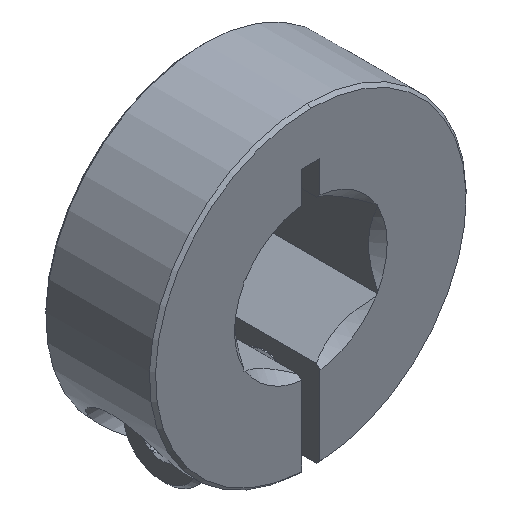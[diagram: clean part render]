
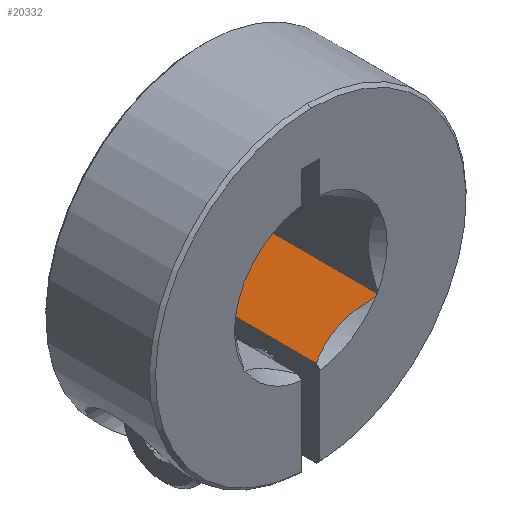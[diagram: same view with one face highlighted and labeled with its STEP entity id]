
A CAD part, isometric view. The second image highlights one B-rep face of the part: STEP entity #20332.
In plain terms, the highlighted planar face has unit normal (-0.5, 0, 0.866).
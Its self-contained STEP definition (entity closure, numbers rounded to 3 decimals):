
#914 = LINE ( 'NONE', #2593, #9902 ) ;
#2089 = DIRECTION ( 'NONE',  ( 0.866, 0., 0.5 ) ) ;
#2593 = CARTESIAN_POINT ( 'NONE',  ( 0.75, -9.322, -5.918 ) ) ;
#2746 = LINE ( 'NONE', #17240, #5144 ) ;
#2910 = CARTESIAN_POINT ( 'NONE',  ( 1.511, 4.395, -5.478 ) ) ;
#3169 = CARTESIAN_POINT ( 'NONE',  ( 3.892, -3.809, -4.104 ) ) ;
#3350 = ORIENTED_EDGE ( 'NONE', *, *, #20883, .T. ) ;
#3456 = VERTEX_POINT ( 'NONE', #19189 ) ;
#3801 = VECTOR ( 'NONE', #8655, 1000. ) ;
#4176 = ORIENTED_EDGE ( 'NONE', *, *, #13679, .F. ) ;
#4382 = CARTESIAN_POINT ( 'NONE',  ( 1.124, 4.528, -5.702 ) ) ;
#4445 = DIRECTION ( 'NONE',  ( 0., 1., 0. ) ) ;
#4642 = B_SPLINE_CURVE_WITH_KNOTS ( 'NONE', 3,
 ( #6226, #12965, #17913, #11360, #6154, #2910, #4382, #19760 ),
 .UNSPECIFIED., .F., .F.,
 ( 4, 2, 2, 4 ),
 ( 0., 0.003, 0.004, 0.005 ),
 .UNSPECIFIED. ) ;
#5144 = VECTOR ( 'NONE', #2089, 1000. ) ;
#5549 = EDGE_CURVE ( 'NONE', #9494, #9581, #12082, .T. ) ;
#6154 = CARTESIAN_POINT ( 'NONE',  ( 2.292, 4.237, -5.028 ) ) ;
#6226 = CARTESIAN_POINT ( 'NONE',  ( 5.358, 5., -3.258 ) ) ;
#7065 = DIRECTION ( 'NONE',  ( -0.866, 0., -0.5 ) ) ;
#7465 = ORIENTED_EDGE ( 'NONE', *, *, #9970, .T. ) ;
#7558 = VECTOR ( 'NONE', #18554, 1000. ) ;
#7605 = AXIS2_PLACEMENT_3D ( 'NONE', #8929, #17117, #7065 ) ;
#8360 = CARTESIAN_POINT ( 'NONE',  ( 0.75, -4.195, -5.918 ) ) ;
#8566 = PLANE ( 'NONE',  #7605 ) ;
#8655 = DIRECTION ( 'NONE',  ( 0., 1., 0. ) ) ;
#8894 = EDGE_CURVE ( 'NONE', #15905, #3456, #2746, .T. ) ;
#8929 = CARTESIAN_POINT ( 'NONE',  ( 2.75, -9.322, -4.763 ) ) ;
#9494 = VERTEX_POINT ( 'NONE', #12653 ) ;
#9518 = EDGE_LOOP ( 'NONE', ( #4176, #15852, #7465, #18778, #3350, #10781 ) ) ;
#9581 = VERTEX_POINT ( 'NONE', #9694 ) ;
#9694 = CARTESIAN_POINT ( 'NONE',  ( 5.5, 5., -3.175 ) ) ;
#9902 = VECTOR ( 'NONE', #4445, 1000. ) ;
#9970 = EDGE_CURVE ( 'NONE', #3456, #9581, #21800, .T. ) ;
#10471 = EDGE_CURVE ( 'NONE', #21363, #12532, #914, .T. ) ;
#10781 = ORIENTED_EDGE ( 'NONE', *, *, #10471, .F. ) ;
#11360 = CARTESIAN_POINT ( 'NONE',  ( 2.688, 4.211, -4.799 ) ) ;
#12011 = CARTESIAN_POINT ( 'NONE',  ( 5.358, -4.5, -3.258 ) ) ;
#12082 = LINE ( 'NONE', #18397, #7558 ) ;
#12532 = VERTEX_POINT ( 'NONE', #21694 ) ;
#12653 = CARTESIAN_POINT ( 'NONE',  ( 5.358, 5., -3.258 ) ) ;
#12965 = CARTESIAN_POINT ( 'NONE',  ( 4.638, 4.601, -3.673 ) ) ;
#13306 = CARTESIAN_POINT ( 'NONE',  ( 1.511, -3.895, -5.478 ) ) ;
#13539 = CARTESIAN_POINT ( 'NONE',  ( 2.688, -3.711, -4.799 ) ) ;
#13679 = EDGE_CURVE ( 'NONE', #15905, #21363, #14548, .T. ) ;
#14548 = B_SPLINE_CURVE_WITH_KNOTS ( 'NONE', 3,
 ( #16617, #18475, #3169, #13539, #16917, #13306, #20116, #8360 ),
 .UNSPECIFIED., .F., .F.,
 ( 4, 2, 2, 4 ),
 ( 0., 0.003, 0.004, 0.005 ),
 .UNSPECIFIED. ) ;
#14685 = CARTESIAN_POINT ( 'NONE',  ( 0.75, -4.195, -5.918 ) ) ;
#15852 = ORIENTED_EDGE ( 'NONE', *, *, #8894, .T. ) ;
#15905 = VERTEX_POINT ( 'NONE', #12011 ) ;
#16617 = CARTESIAN_POINT ( 'NONE',  ( 5.358, -4.5, -3.258 ) ) ;
#16917 = CARTESIAN_POINT ( 'NONE',  ( 2.292, -3.737, -5.028 ) ) ;
#16919 = CARTESIAN_POINT ( 'NONE',  ( 5.5, -4.5, -3.175 ) ) ;
#17117 = DIRECTION ( 'NONE',  ( 0.5, 0., -0.866 ) ) ;
#17240 = CARTESIAN_POINT ( 'NONE',  ( 2.75, -4.5, -4.763 ) ) ;
#17913 = CARTESIAN_POINT ( 'NONE',  ( 3.892, 4.309, -4.104 ) ) ;
#18397 = CARTESIAN_POINT ( 'NONE',  ( 2.75, 5., -4.763 ) ) ;
#18475 = CARTESIAN_POINT ( 'NONE',  ( 4.638, -4.101, -3.673 ) ) ;
#18554 = DIRECTION ( 'NONE',  ( 0.866, 0., 0.5 ) ) ;
#18778 = ORIENTED_EDGE ( 'NONE', *, *, #5549, .F. ) ;
#19058 = FACE_OUTER_BOUND ( 'NONE', #9518, .T. ) ;
#19189 = CARTESIAN_POINT ( 'NONE',  ( 5.5, -4.5, -3.175 ) ) ;
#19760 = CARTESIAN_POINT ( 'NONE',  ( 0.75, 4.695, -5.918 ) ) ;
#20116 = CARTESIAN_POINT ( 'NONE',  ( 1.124, -4.028, -5.702 ) ) ;
#20332 = ADVANCED_FACE ( 'NONE', ( #19058 ), #8566, .F. ) ;
#20883 = EDGE_CURVE ( 'NONE', #9494, #12532, #4642, .T. ) ;
#21363 = VERTEX_POINT ( 'NONE', #14685 ) ;
#21694 = CARTESIAN_POINT ( 'NONE',  ( 0.75, 4.695, -5.918 ) ) ;
#21800 = LINE ( 'NONE', #16919, #3801 ) ;
